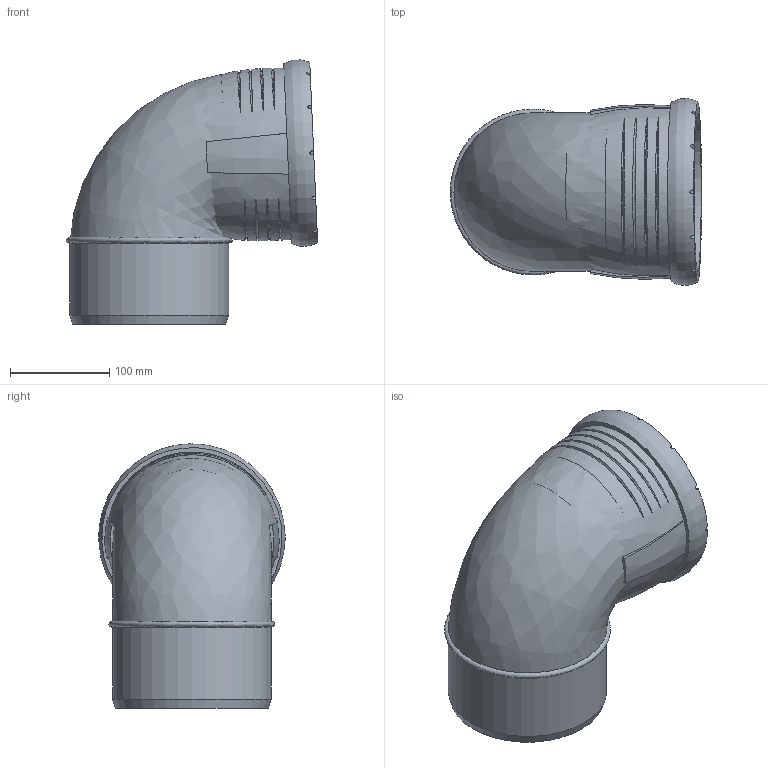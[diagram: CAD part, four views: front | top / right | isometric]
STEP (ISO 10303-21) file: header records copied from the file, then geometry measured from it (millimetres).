
FILE_DESCRIPTION(/* description */ (''),/* implementation_level */ '2;1');
FILE_NAME(/* name */ 'H:\Geberit-Teile\Export\Bogen_TEST\stp\393724.stp',/* time_stamp */ '2017-02-14T10:18:00+01:00',/* author */ ('seihe2'),/* organization */ (''),/* preprocessor_version */ 'ST-DEVELOPER v15.2',/* originating_system */ 'Autodesk Inventor 2014',/* authorisation */ '');
FILE_SCHEMA (('AUTOMOTIVE_DESIGN { 1 0 10303 214 3 1 1 }'));
Length unit declared in the file: millimetre
Products named in the file (1): 393724
Bounding box: 253.64 x 188.24 x 266.69 mm (x, y, z)
Volume: 3376309 mm3; surface area: 346680.1 mm2
Topology: 2 solids, 2 shells, 56 faces, 136 edges, 95 vertices
Faces by surface type: bspline 23, cylinder 20, plane 10, cone 2, torus 1
Full cylindrical faces by diameter (mm): 124.25 x1, 148.25 x1, 160.25 x1, 161.2 x1, 161.7 x1, 174.9 x1
Entity records: 4278 total; most frequent: CARTESIAN_POINT 3041, ORIENTED_EDGE 254, DIRECTION 194, EDGE_CURVE 125, AXIS2_PLACEMENT_3D 95, VERTEX_POINT 93, EDGE_LOOP 79, B_SPLINE_CURVE_WITH_KNOTS 59
